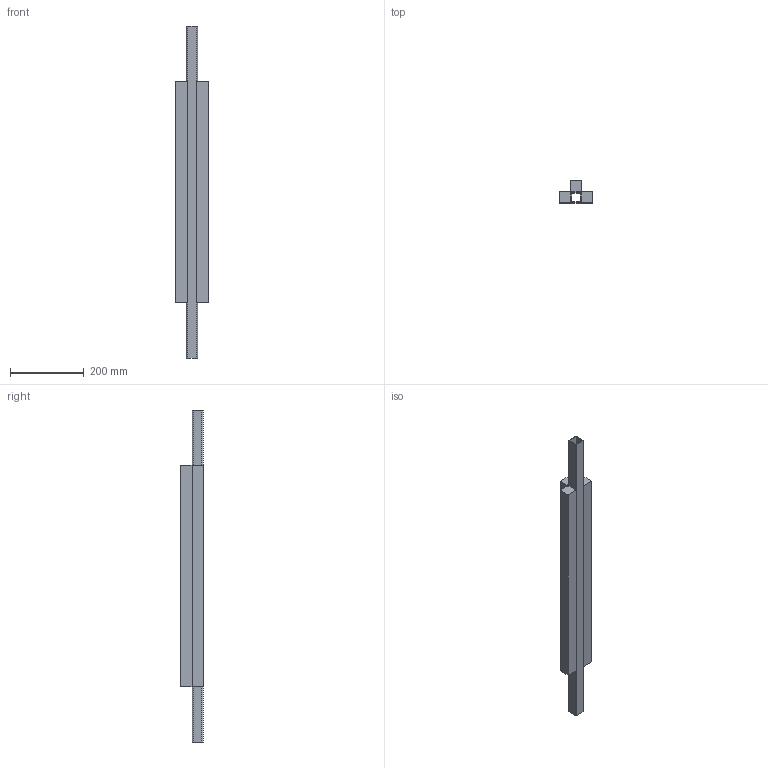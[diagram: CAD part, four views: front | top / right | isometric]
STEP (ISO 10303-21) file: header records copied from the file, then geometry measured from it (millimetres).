
FILE_DESCRIPTION (( 'STEP AP214' ), '1' );
FILE_NAME ('0001010_0_00.step', '2018-07-12T08:37:34', ( '' ), ( '' ), 'SwSTEP 2.0', 'SolidWorks 2018', '' );
FILE_SCHEMA (( 'AUTOMOTIVE_DESIGN' ));
Length unit declared in the file: millimetre
Products named in the file (3): 0001010_0_00; 0001010_0_02_3 lame L=600; 0001010_0_01_3 lame L=600
Assembly tree (2 placements, depth 2):
  0001010_0_00
    0001010_0_01_3 lame L=600
    0001010_0_02_3 lame L=600
Bounding box: 90 x 60 x 900 mm (x, y, z)
Volume: 1909282.3 mm3; surface area: 415922.3 mm2
Topology: 2 solids, 2 shells, 32 faces, 84 edges, 56 vertices
Faces by surface type: plane 24, cylinder 8
Entity records: 1450 total; most frequent: CARTESIAN_POINT 177, DIRECTION 174, ORIENTED_EDGE 168, EDGE_CURVE 84, VECTOR 68, LINE 68, VERTEX_POINT 56, AXIS2_PLACEMENT_3D 53
